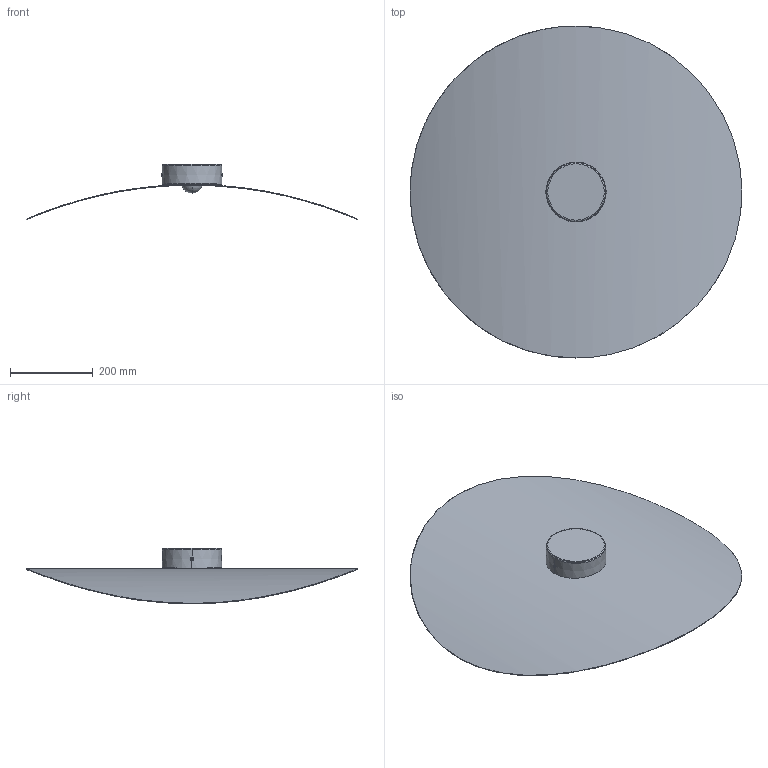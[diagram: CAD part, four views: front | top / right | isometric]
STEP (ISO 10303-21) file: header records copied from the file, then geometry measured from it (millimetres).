
FILE_DESCRIPTION((''),'2;1');
FILE_NAME('800','2025-05-14T10:30:09',('elena.baldelli'),(''),'CREO PARAMETRIC BY PTC INC, 2020354','CREO PARAMETRIC BY PTC INC, 2020354','');
FILE_SCHEMA(('CONFIG_CONTROL_DESIGN'));
Length unit declared in the file: millimetre
Products named in the file (1): 800
Bounding box: 799.76 x 800 x 134.21 mm (x, y, z)
Surface area: 1086116.5 mm2 (no closed solid volume)
Topology: 0 solids, 5 shells, 20 faces, 50 edges, 33 vertices
Faces by surface type: bspline 6, torus 4, cylinder 3, plane 3, sphere 2, cone 2
Entity records: 9181 total; most frequent: CARTESIAN_POINT 8718, DIRECTION 82, ORIENTED_EDGE 82, EDGE_CURVE 48, AXIS2_PLACEMENT_3D 38, VERTEX_POINT 33, CIRCLE 24, EDGE_LOOP 20
